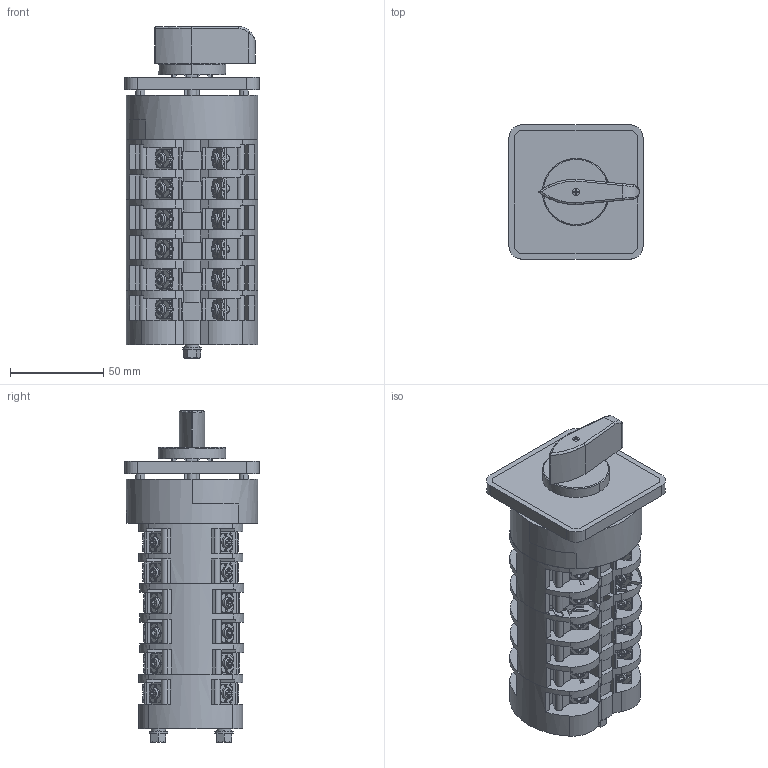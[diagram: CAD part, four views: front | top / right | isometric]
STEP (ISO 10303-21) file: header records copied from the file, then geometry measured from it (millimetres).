
FILE_DESCRIPTION((''),'2;1');
FILE_NAME('2470000100_SW0002','2025-04-08T',('sipei.wu'),(''),'PRO/ENGINEER BY PARAMETRIC TECHNOLOGY CORPORATION, 2015440','PRO/ENGINEER BY PARAMETRIC TECHNOLOGY CORPORATION, 2015440','');
FILE_SCHEMA(('CONFIG_CONTROL_DESIGN'));
Products named in the file (1): 2470000100_SW0002
Bounding box: 72 x 72 x 178.13 mm (x, y, z)
Volume: 395399.9 mm3; surface area: 122874.2 mm2
Topology: 1 solids, 30 shells, 4474 faces, 12691 edges, 8146 vertices
Faces by surface type: plane 3000, cylinder 1171, cone 136, torus 112, sphere 50, bspline 5
Entity records: 147912 total; most frequent: CARTESIAN_POINT 30094, ORIENTED_EDGE 25382, DIRECTION 24008, EDGE_CURVE 12691, VECTOR 8814, LINE 8814, VERTEX_POINT 8146, AXIS2_PLACEMENT_3D 7597
